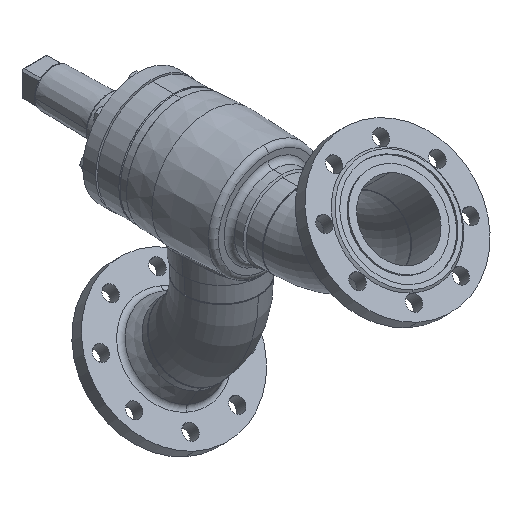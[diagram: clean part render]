
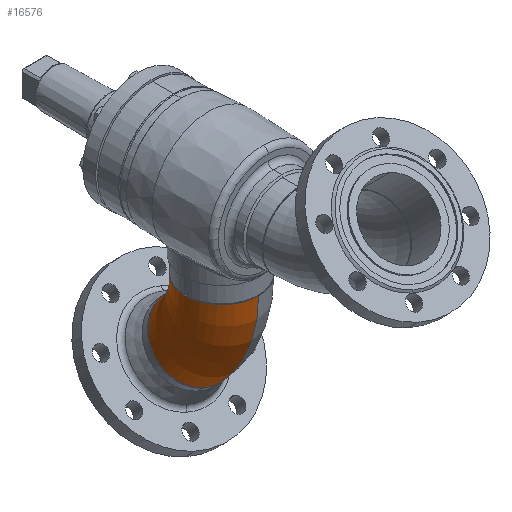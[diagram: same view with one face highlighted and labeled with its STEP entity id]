
A CAD part, isometric view. The second image highlights one B-rep face of the part: STEP entity #16576.
In plain terms, the highlighted toroidal (fillet/blend) face has major radius 152 mm and minor radius 57.15 mm.
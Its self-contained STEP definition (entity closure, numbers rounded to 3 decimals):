
#110 = EDGE_LOOP ( 'NONE', ( #21519, #20197, #19073, #8401 ) ) ;
#16576 = ADVANCED_FACE ( 'NONE', ( #16349 ), #16350, .T. ) ;
#17324 = CIRCLE ( 'NONE', #17325, 94.85 ) ;
#17325 = AXIS2_PLACEMENT_3D ( 'NONE', #17326, #17327, #17328 ) ;
#17326 = CARTESIAN_POINT ( 'NONE',  ( 0., -152., 0. ) ) ;
#17327 = DIRECTION ( 'NONE',  ( 0., 0., 1. ) ) ;
#17328 = DIRECTION ( 'NONE',  ( 1., 0., 0. ) ) ;
#1335 = CARTESIAN_POINT ( 'NONE',  ( 0., 57.15, 0. ) ) ;
#1827 = CIRCLE ( 'NONE', #1828, 209.15 ) ;
#1828 = AXIS2_PLACEMENT_3D ( 'NONE', #1829, #1846, #1847 ) ;
#1829 = CARTESIAN_POINT ( 'NONE',  ( 0., -152., 0. ) ) ;
#1846 = DIRECTION ( 'NONE',  ( 0., 0., 1. ) ) ;
#1847 = DIRECTION ( 'NONE',  ( 1., 0., 0. ) ) ;
#18697 = EDGE_CURVE ( 'NONE', #19595, #8931, #20171, .T. ) ;
#19073 = ORIENTED_EDGE ( 'NONE', *, *, #18697, .T. ) ;
#19595 = VERTEX_POINT ( 'NONE', #1335 ) ;
#3418 = CARTESIAN_POINT ( 'NONE',  ( 67.069, -84.931, 0. ) ) ;
#19824 = EDGE_CURVE ( 'NONE', #20927, #19595, #1827, .T. ) ;
#19893 = CARTESIAN_POINT ( 'NONE',  ( 0., -57.15, 0. ) ) ;
#20171 = CIRCLE ( 'NONE', #20172, 57.15 ) ;
#20172 = AXIS2_PLACEMENT_3D ( 'NONE', #20173, #20174, #20175 ) ;
#20173 = CARTESIAN_POINT ( 'NONE',  ( 0., 0., 0. ) ) ;
#20174 = DIRECTION ( 'NONE',  ( 1., 0., 0. ) ) ;
#20175 = DIRECTION ( 'NONE',  ( 0., 0., -1. ) ) ;
#20197 = ORIENTED_EDGE ( 'NONE', *, *, #19824, .T. ) ;
#3996 = CARTESIAN_POINT ( 'NONE',  ( 147.891, -4.109, 0. ) ) ;
#4277 = CIRCLE ( 'NONE', #4278, 57.15 ) ;
#4278 = AXIS2_PLACEMENT_3D ( 'NONE', #4279, #4302, #4303 ) ;
#4279 = CARTESIAN_POINT ( 'NONE',  ( 107.48, -44.52, 0. ) ) ;
#4302 = DIRECTION ( 'NONE',  ( 0.707, -0.707, 0. ) ) ;
#4303 = DIRECTION ( 'NONE',  ( 0., 0., -1. ) ) ;
#20708 = VERTEX_POINT ( 'NONE', #3418 ) ;
#20927 = VERTEX_POINT ( 'NONE', #3996 ) ;
#21154 = EDGE_CURVE ( 'NONE', #20927, #20708, #4277, .T. ) ;
#21519 = ORIENTED_EDGE ( 'NONE', *, *, #21154, .F. ) ;
#8029 = EDGE_CURVE ( 'NONE', #20708, #8931, #17324, .T. ) ;
#8401 = ORIENTED_EDGE ( 'NONE', *, *, #8029, .F. ) ;
#8931 = VERTEX_POINT ( 'NONE', #19893 ) ;
#16349 = FACE_OUTER_BOUND ( 'NONE', #110, .T. ) ;
#16350 = TOROIDAL_SURFACE ( 'NONE', #16351, 152., 57.15 ) ;
#16351 = AXIS2_PLACEMENT_3D ( 'NONE', #16352, #16355, #16356 ) ;
#16352 = CARTESIAN_POINT ( 'NONE',  ( 0., -152., 0. ) ) ;
#16355 = DIRECTION ( 'NONE',  ( 0., 0., 1. ) ) ;
#16356 = DIRECTION ( 'NONE',  ( 1., 0., 0. ) ) ;
